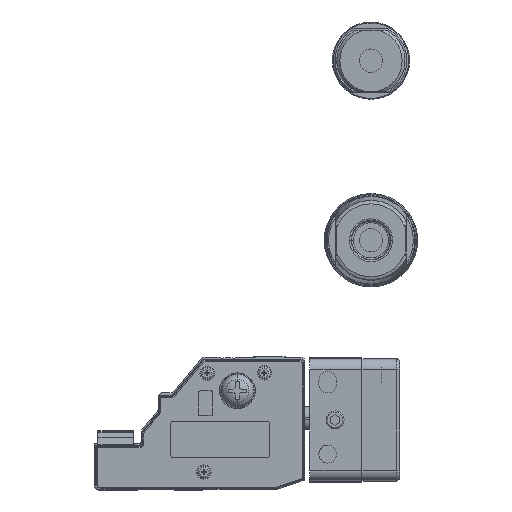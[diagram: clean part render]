
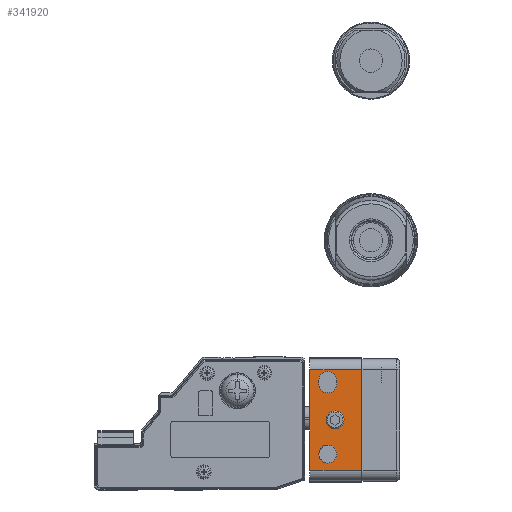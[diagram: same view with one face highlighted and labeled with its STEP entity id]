
A CAD part, left-side view. The second image highlights one B-rep face of the part: STEP entity #341920.
In plain terms, the highlighted planar face has unit normal (-1, 0, 0) as drawn and (0, 0, -1) by its records, which use the part's own axes.
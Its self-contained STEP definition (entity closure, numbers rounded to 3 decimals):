
#340870=CARTESIAN_POINT('',(-201.714,217.373,
0.));
#340880=DIRECTION('',(-0.,-0.,-1.));
#340890=DIRECTION('',(0.,-1.,0.));
#340900=AXIS2_PLACEMENT_3D('',#340870,#340880,#340890);
#340910=PLANE('',#340900);
#340920=CARTESIAN_POINT('',(-191.714,212.373,
0.));
#340930=DIRECTION('',(0.,0.,-1.));
#340940=DIRECTION('',(-1.,0.,0.));
#340950=AXIS2_PLACEMENT_3D('',#340920,#340930,#340940);
#340960=CIRCLE('',#340950,2.5);
#340970=CARTESIAN_POINT('',(-191.714,209.873,
0.));
#340980=VERTEX_POINT('',#340970);
#340990=CARTESIAN_POINT('',(-191.714,214.873,
0.));
#341000=VERTEX_POINT('',#340990);
#341010=EDGE_CURVE('',#340980,#341000,#340960,.T.);
#341020=ORIENTED_EDGE('',*,*,#341010,.F.);
#341030=CARTESIAN_POINT('',(0.,214.873,0.));
#341040=DIRECTION('',(-1.,0.,0.));
#341050=VECTOR('',#341040,1.);
#341060=LINE('',#341030,#341050);
#341070=CARTESIAN_POINT('',(-190.714,214.873,
0.));
#341080=VERTEX_POINT('',#341070);
#341090=EDGE_CURVE('',#341080,#341000,#341060,.T.);
#341100=ORIENTED_EDGE('',*,*,#341090,.T.);
#341110=CARTESIAN_POINT('',(-190.714,212.373,
0.));
#341120=DIRECTION('',(0.,0.,-1.));
#341130=DIRECTION('',(-1.,0.,0.));
#341140=AXIS2_PLACEMENT_3D('',#341110,#341120,#341130);
#341150=CIRCLE('',#341140,2.5);
#341160=CARTESIAN_POINT('',(-190.714,209.873,
0.));
#341170=VERTEX_POINT('',#341160);
#341180=EDGE_CURVE('',#341080,#341170,#341150,.T.);
#341190=ORIENTED_EDGE('',*,*,#341180,.F.);
#341200=CARTESIAN_POINT('',(0.,209.873,0.));
#341210=DIRECTION('',(1.,0.,0.));
#341220=VECTOR('',#341210,1.);
#341230=LINE('',#341200,#341220);
#341240=EDGE_CURVE('',#340980,#341170,#341230,.T.);
#341250=ORIENTED_EDGE('',*,*,#341240,.T.);
#341260=EDGE_LOOP('',(#341250,#341190,#341100,#341020));
#341270=FACE_BOUND('',#341260,.T.);
#341280=CARTESIAN_POINT('',(-171.214,212.373,
0.));
#341290=DIRECTION('',(0.,0.,-1.));
#341300=DIRECTION('',(-1.,0.,0.));
#341310=AXIS2_PLACEMENT_3D('',#341280,#341290,#341300);
#341320=CIRCLE('',#341310,2.5);
#341330=CARTESIAN_POINT('',(-173.714,212.373,
0.));
#341340=VERTEX_POINT('',#341330);
#341350=CARTESIAN_POINT('',(-168.714,212.373,
0.));
#341360=VERTEX_POINT('',#341350);
#341370=EDGE_CURVE('',#341340,#341360,#341320,.T.);
#341380=ORIENTED_EDGE('',*,*,#341370,.F.);
#341390=EDGE_CURVE('',#341360,#341340,#341320,.T.);
#341400=ORIENTED_EDGE('',*,*,#341390,.F.);
#341410=EDGE_LOOP('',(#341400,#341380));
#341420=FACE_BOUND('',#341410,.T.);
#341430=CARTESIAN_POINT('',(-180.714,210.373,
0.));
#341440=DIRECTION('',(0.,0.,-1.));
#341450=DIRECTION('',(-1.,0.,0.));
#341460=AXIS2_PLACEMENT_3D('',#341430,#341440,#341450);
#341470=CIRCLE('',#341460,2.5);
#341480=CARTESIAN_POINT('',(-183.214,210.373,
0.));
#341490=VERTEX_POINT('',#341480);
#341500=CARTESIAN_POINT('',(-178.214,210.373,
0.));
#341510=VERTEX_POINT('',#341500);
#341520=EDGE_CURVE('',#341490,#341510,#341470,.T.);
#341530=ORIENTED_EDGE('',*,*,#341520,.F.);
#341540=EDGE_CURVE('',#341510,#341490,#341470,.T.);
#341550=ORIENTED_EDGE('',*,*,#341540,.F.);
#341560=EDGE_LOOP('',(#341550,#341530));
#341570=FACE_BOUND('',#341560,.T.);
#341580=CARTESIAN_POINT('',(-166.714,-2.,0.));
#341590=DIRECTION('',(0.,1.,0.));
#341600=VECTOR('',#341590,1.);
#341610=LINE('',#341580,#341600);
#341620=CARTESIAN_POINT('',(-166.714,203.073,
0.));
#341630=VERTEX_POINT('',#341620);
#341640=CARTESIAN_POINT('',(-166.714,217.373,
0.));
#341650=VERTEX_POINT('',#341640);
#341660=EDGE_CURVE('',#341630,#341650,#341610,.T.);
#341670=ORIENTED_EDGE('',*,*,#341660,.F.);
#341680=CARTESIAN_POINT('',(0.,217.373,0.));
#341690=DIRECTION('',(-1.,0.,0.));
#341700=VECTOR('',#341690,1.);
#341710=LINE('',#341680,#341700);
#341720=CARTESIAN_POINT('',(-194.714,217.373,
0.));
#341730=VERTEX_POINT('',#341720);
#341740=EDGE_CURVE('',#341650,#341730,#341710,.T.);
#341750=ORIENTED_EDGE('',*,*,#341740,.F.);
#341760=CARTESIAN_POINT('',(-194.714,-2.,0.));
#341770=DIRECTION('',(0.,-1.,0.));
#341780=VECTOR('',#341770,1.);
#341790=LINE('',#341760,#341780);
#341800=CARTESIAN_POINT('',(-194.714,203.073,
0.));
#341810=VERTEX_POINT('',#341800);
#341820=EDGE_CURVE('',#341730,#341810,#341790,.T.);
#341830=ORIENTED_EDGE('',*,*,#341820,.F.);
#341840=CARTESIAN_POINT('',(0.,203.073,0.));
#341850=DIRECTION('',(-1.,0.,0.));
#341860=VECTOR('',#341850,1.);
#341870=LINE('',#341840,#341860);
#341880=EDGE_CURVE('',#341630,#341810,#341870,.T.);
#341890=ORIENTED_EDGE('',*,*,#341880,.T.);
#341900=EDGE_LOOP('',(#341890,#341830,#341750,#341670));
#341910=FACE_OUTER_BOUND('',#341900,.T.);
#341920=ADVANCED_FACE('',(#341270,#341420,#341570,#341910),#340910,.T.);
